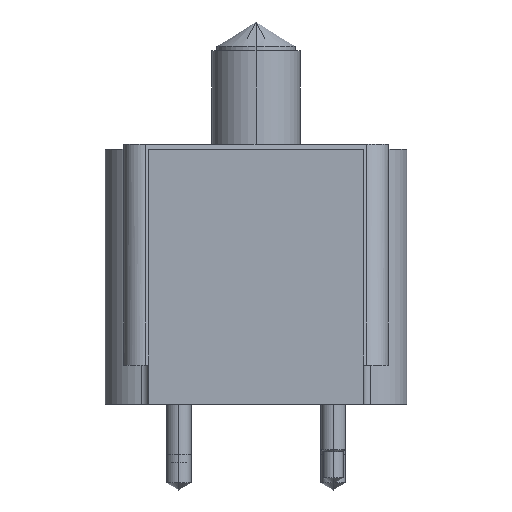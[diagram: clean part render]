
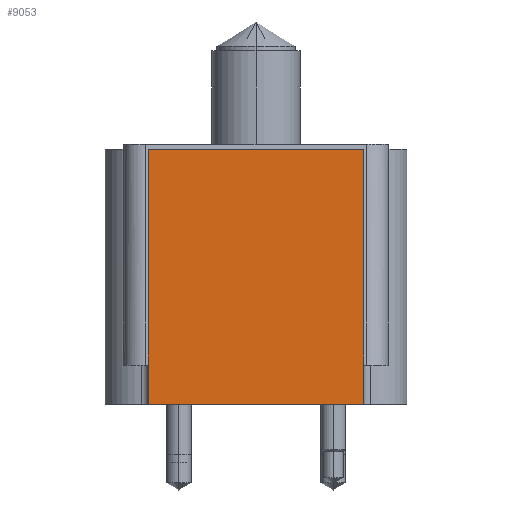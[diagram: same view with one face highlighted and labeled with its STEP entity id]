
A CAD part, left-side view. The second image highlights one B-rep face of the part: STEP entity #9053.
In plain terms, the highlighted planar face has unit normal (-1, 0, 0).
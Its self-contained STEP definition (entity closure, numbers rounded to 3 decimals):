
#9014=CARTESIAN_POINT('',(-84.201,-34.988,82.55));
#9015=VERTEX_POINT('',#9014);
#9016=CARTESIAN_POINT('',(-84.201,-34.988,0.0));
#9017=VERTEX_POINT('',#9016);
#9018=CARTESIAN_POINT('',(-84.201,-34.988,0.0));
#9019=DIRECTION('',(0.0,0.0,-1.0));
#9020=VECTOR('',#9019,1.0);
#9021=LINE('',#9018,#9020);
#9022=EDGE_CURVE('',#9015,#9017,#9021,.T.);
#9023=ORIENTED_EDGE('',*,*,#9022,.F.);
#9024=CARTESIAN_POINT('',(-84.201,34.988,82.55));
#9025=VERTEX_POINT('',#9024);
#9026=CARTESIAN_POINT('',(-84.201,0.0,82.55));
#9027=DIRECTION('',(0.0,1.0,0.0));
#9028=VECTOR('',#9027,1.0);
#9029=LINE('',#9026,#9028);
#9030=EDGE_CURVE('',#9015,#9025,#9029,.T.);
#9031=ORIENTED_EDGE('',*,*,#9030,.T.);
#9032=CARTESIAN_POINT('',(-84.201,34.988,0.0));
#9033=VERTEX_POINT('',#9032);
#9034=CARTESIAN_POINT('',(-84.201,34.988,0.0));
#9035=DIRECTION('',(0.0,0.0,1.0));
#9036=VECTOR('',#9035,1.0);
#9037=LINE('',#9034,#9036);
#9038=EDGE_CURVE('',#9033,#9025,#9037,.T.);
#9039=ORIENTED_EDGE('',*,*,#9038,.F.);
#9040=CARTESIAN_POINT('',(-84.201,0.0,0.0));
#9041=DIRECTION('',(0.0,-1.0,0.0));
#9042=VECTOR('',#9041,1.0);
#9043=LINE('',#9040,#9042);
#9044=EDGE_CURVE('',#9033,#9017,#9043,.T.);
#9045=ORIENTED_EDGE('',*,*,#9044,.T.);
#9046=EDGE_LOOP('',(#9023,#9031,#9039,#9045));
#9047=FACE_OUTER_BOUND('',#9046,.T.);
#9048=CARTESIAN_POINT('',(-84.201,0.0,0.0));
#9049=DIRECTION('',(-1.0,0.0,-0.0));
#9050=DIRECTION('',(-0.0,0.0,1.0));
#9051=AXIS2_PLACEMENT_3D('',#9048,#9049,#9050);
#9052=PLANE('',#9051);
#9053=ADVANCED_FACE('',(#9047),#9052,.T.);
